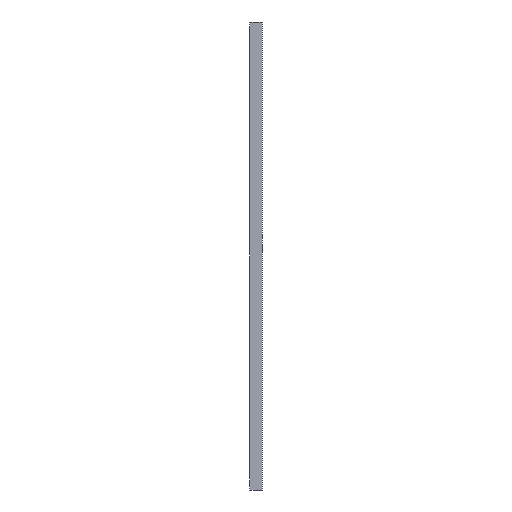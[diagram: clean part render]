
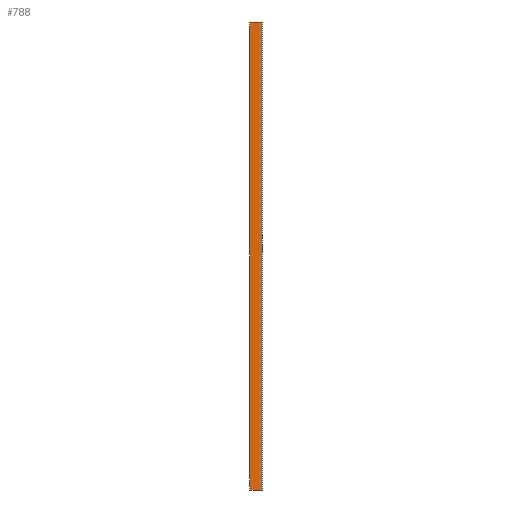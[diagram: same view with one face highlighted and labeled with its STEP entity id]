
A CAD part, left-side view. The second image highlights one B-rep face of the part: STEP entity #788.
In plain terms, the highlighted planar face has unit normal (-1, 0, 0).
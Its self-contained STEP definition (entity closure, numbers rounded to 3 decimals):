
#5 = CARTESIAN_POINT ( 'NONE',  ( -8., 0., 0. ) ) ;
#7 = EDGE_CURVE ( 'NONE', #792, #736, #1083, .T. ) ;
#74 = ORIENTED_EDGE ( 'NONE', *, *, #774, .F. ) ;
#120 = CARTESIAN_POINT ( 'NONE',  ( -8., 3.2, 479. ) ) ;
#201 = VECTOR ( 'NONE', #590, 1000. ) ;
#243 = VECTOR ( 'NONE', #937, 1000. ) ;
#245 = LINE ( 'NONE', #479, #906 ) ;
#255 = DIRECTION ( 'NONE',  ( -1., 0., 0. ) ) ;
#264 = LINE ( 'NONE', #747, #708 ) ;
#286 = DIRECTION ( 'NONE',  ( 0., 1., 0. ) ) ;
#305 = VERTEX_POINT ( 'NONE', #1368 ) ;
#308 = LINE ( 'NONE', #1395, #681 ) ;
#314 = DIRECTION ( 'NONE',  ( 0., -1., 0. ) ) ;
#351 = EDGE_LOOP ( 'NONE', ( #1190, #1291, #1244, #641, #580, #866, #1111, #74 ) ) ;
#382 = EDGE_CURVE ( 'NONE', #792, #886, #1087, .T. ) ;
#404 = VECTOR ( 'NONE', #286, 1000. ) ;
#416 = DIRECTION ( 'NONE',  ( 0., 0., -1. ) ) ;
#479 = CARTESIAN_POINT ( 'NONE',  ( -8., 0., 479. ) ) ;
#518 = CARTESIAN_POINT ( 'NONE',  ( -8., 12.5, 479. ) ) ;
#530 = EDGE_CURVE ( 'NONE', #1455, #1130, #264, .T. ) ;
#553 = LINE ( 'NONE', #793, #1012 ) ;
#580 = ORIENTED_EDGE ( 'NONE', *, *, #688, .T. ) ;
#590 = DIRECTION ( 'NONE',  ( 0., -1., 0. ) ) ;
#598 = CARTESIAN_POINT ( 'NONE',  ( -8., 0., 479. ) ) ;
#641 = ORIENTED_EDGE ( 'NONE', *, *, #687, .F. ) ;
#653 = VECTOR ( 'NONE', #1062, 1000. ) ;
#681 = VECTOR ( 'NONE', #314, 1000. ) ;
#687 = EDGE_CURVE ( 'NONE', #1351, #1185, #308, .T. ) ;
#688 = EDGE_CURVE ( 'NONE', #1351, #305, #553, .T. ) ;
#708 = VECTOR ( 'NONE', #416, 1000. ) ;
#716 = CARTESIAN_POINT ( 'NONE',  ( -8., 0., 0. ) ) ;
#736 = VERTEX_POINT ( 'NONE', #847 ) ;
#747 = CARTESIAN_POINT ( 'NONE',  ( -8., 12.5, 479. ) ) ;
#751 = CARTESIAN_POINT ( 'NONE',  ( -8., 0., 479. ) ) ;
#755 = AXIS2_PLACEMENT_3D ( 'NONE', #598, #255, #1193 ) ;
#774 = EDGE_CURVE ( 'NONE', #736, #1130, #1308, .T. ) ;
#787 = DIRECTION ( 'NONE',  ( 0., 1., 0. ) ) ;
#788 = ADVANCED_FACE ( 'NONE', ( #1440 ), #1298, .T. ) ;
#792 = VERTEX_POINT ( 'NONE', #1086 ) ;
#793 = CARTESIAN_POINT ( 'NONE',  ( -8., 0., 479. ) ) ;
#847 = CARTESIAN_POINT ( 'NONE',  ( -8., 9.3, 0. ) ) ;
#866 = ORIENTED_EDGE ( 'NONE', *, *, #1325, .T. ) ;
#886 = VERTEX_POINT ( 'NONE', #1459 ) ;
#906 = VECTOR ( 'NONE', #1309, 1000. ) ;
#937 = DIRECTION ( 'NONE',  ( 0., 1., 0. ) ) ;
#992 = CARTESIAN_POINT ( 'NONE',  ( -8., 12.5, 0. ) ) ;
#1012 = VECTOR ( 'NONE', #787, 1000. ) ;
#1062 = DIRECTION ( 'NONE',  ( 0., 1., 0. ) ) ;
#1070 = CARTESIAN_POINT ( 'NONE',  ( -8., 12.5, 479. ) ) ;
#1083 = LINE ( 'NONE', #5, #404 ) ;
#1086 = CARTESIAN_POINT ( 'NONE',  ( -8., 3.2, 0. ) ) ;
#1087 = LINE ( 'NONE', #1220, #201 ) ;
#1111 = ORIENTED_EDGE ( 'NONE', *, *, #530, .T. ) ;
#1130 = VERTEX_POINT ( 'NONE', #992 ) ;
#1185 = VERTEX_POINT ( 'NONE', #751 ) ;
#1190 = ORIENTED_EDGE ( 'NONE', *, *, #7, .F. ) ;
#1193 = DIRECTION ( 'NONE',  ( 0., 0., 1. ) ) ;
#1220 = CARTESIAN_POINT ( 'NONE',  ( -8., 0., 0. ) ) ;
#1244 = ORIENTED_EDGE ( 'NONE', *, *, #1350, .F. ) ;
#1291 = ORIENTED_EDGE ( 'NONE', *, *, #382, .T. ) ;
#1298 = PLANE ( 'NONE',  #755 ) ;
#1308 = LINE ( 'NONE', #716, #653 ) ;
#1309 = DIRECTION ( 'NONE',  ( 0., 0., -1. ) ) ;
#1325 = EDGE_CURVE ( 'NONE', #305, #1455, #1537, .T. ) ;
#1350 = EDGE_CURVE ( 'NONE', #1185, #886, #245, .T. ) ;
#1351 = VERTEX_POINT ( 'NONE', #120 ) ;
#1368 = CARTESIAN_POINT ( 'NONE',  ( -8., 9.3, 479. ) ) ;
#1395 = CARTESIAN_POINT ( 'NONE',  ( -8., 0., 479. ) ) ;
#1440 = FACE_OUTER_BOUND ( 'NONE', #351, .T. ) ;
#1455 = VERTEX_POINT ( 'NONE', #518 ) ;
#1459 = CARTESIAN_POINT ( 'NONE',  ( -8., 0., 0. ) ) ;
#1537 = LINE ( 'NONE', #1070, #243 ) ;
